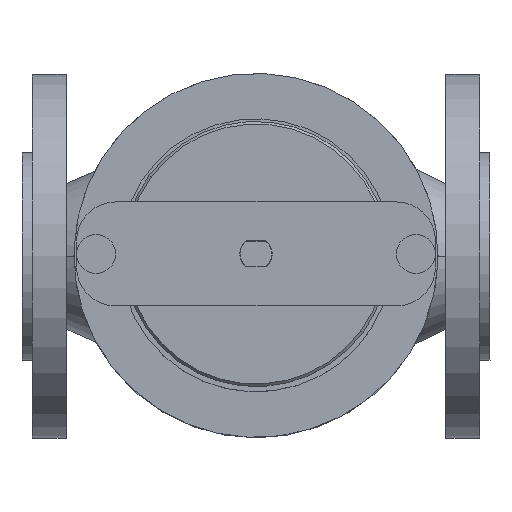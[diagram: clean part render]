
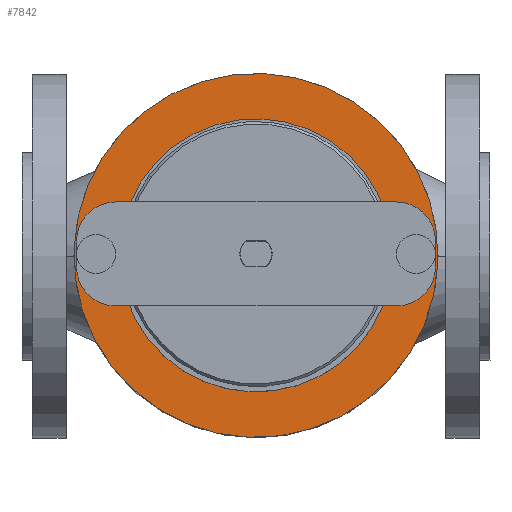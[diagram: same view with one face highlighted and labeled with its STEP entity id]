
A CAD part, top view. The second image highlights one B-rep face of the part: STEP entity #7842.
In plain terms, the highlighted planar face has unit normal (0, 0, 1).
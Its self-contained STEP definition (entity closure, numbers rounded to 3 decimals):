
#58 = DIRECTION ( 'NONE',  ( 0., 0., 1. ) ) ;
#248 = DIRECTION ( 'NONE',  ( 0., 1., 0. ) ) ;
#435 = DIRECTION ( 'NONE',  ( 0., 1., 0. ) ) ;
#616 = CIRCLE ( 'NONE', #7665, 52.5 ) ;
#708 = VERTEX_POINT ( 'NONE', #3584 ) ;
#749 = FACE_BOUND ( 'NONE', #6006, .T. ) ;
#775 = CARTESIAN_POINT ( 'NONE',  ( 79.828, 19.093, 146.08 ) ) ;
#1074 = DIRECTION ( 'NONE',  ( 0., 0., -1. ) ) ;
#1100 = CIRCLE ( 'NONE', #7341, 7.5 ) ;
#1119 = CIRCLE ( 'NONE', #3381, 70. ) ;
#1525 = VERTEX_POINT ( 'NONE', #9306 ) ;
#1707 = EDGE_CURVE ( 'NONE', #9060, #9465, #616, .T. ) ;
#1737 = DIRECTION ( 'NONE',  ( 0., 0., -1. ) ) ;
#1789 = CARTESIAN_POINT ( 'NONE',  ( 18.328, 11.593, 146.08 ) ) ;
#1801 = CARTESIAN_POINT ( 'NONE',  ( 18.328, 11.593, 146.08 ) ) ;
#1809 = EDGE_CURVE ( 'NONE', #1525, #9267, #5259, .T. ) ;
#1831 = CARTESIAN_POINT ( 'NONE',  ( 18.328, 11.593, 146.08 ) ) ;
#1836 = CARTESIAN_POINT ( 'NONE',  ( 79.828, 11.593, 146.08 ) ) ;
#1885 = CIRCLE ( 'NONE', #4923, 7.5 ) ;
#2077 = AXIS2_PLACEMENT_3D ( 'NONE', #1801, #4899, #248 ) ;
#2196 = EDGE_LOOP ( 'NONE', ( #2744, #8680 ) ) ;
#2308 = ORIENTED_EDGE ( 'NONE', *, *, #5421, .F. ) ;
#2313 = PLANE ( 'NONE',  #7185 ) ;
#2617 = CARTESIAN_POINT ( 'NONE',  ( 38.419, 60.096, 146.08 ) ) ;
#2744 = ORIENTED_EDGE ( 'NONE', *, *, #9603, .F. ) ;
#3061 = FACE_OUTER_BOUND ( 'NONE', #5302, .T. ) ;
#3227 = DIRECTION ( 'NONE',  ( 0., 0., 1. ) ) ;
#3381 = AXIS2_PLACEMENT_3D ( 'NONE', #1789, #1737, #4147 ) ;
#3425 = ORIENTED_EDGE ( 'NONE', *, *, #7096, .T. ) ;
#3456 = DIRECTION ( 'NONE',  ( 0., 0., -1. ) ) ;
#3584 = CARTESIAN_POINT ( 'NONE',  ( -43.172, 4.093, 146.08 ) ) ;
#3607 = ORIENTED_EDGE ( 'NONE', *, *, #9910, .F. ) ;
#4147 = DIRECTION ( 'NONE',  ( -1., 0., 0. ) ) ;
#4383 = CARTESIAN_POINT ( 'NONE',  ( 18.328, 11.593, 146.08 ) ) ;
#4513 = ORIENTED_EDGE ( 'NONE', *, *, #4650, .F. ) ;
#4554 = VERTEX_POINT ( 'NONE', #7059 ) ;
#4650 = EDGE_CURVE ( 'NONE', #9465, #9060, #8156, .T. ) ;
#4759 = AXIS2_PLACEMENT_3D ( 'NONE', #1831, #1074, #5687 ) ;
#4843 = DIRECTION ( 'NONE',  ( 0., 1., 0. ) ) ;
#4899 = DIRECTION ( 'NONE',  ( 0., 0., 1. ) ) ;
#4901 = CARTESIAN_POINT ( 'NONE',  ( -43.172, 11.593, 146.08 ) ) ;
#4912 = VERTEX_POINT ( 'NONE', #7357 ) ;
#4923 = AXIS2_PLACEMENT_3D ( 'NONE', #8531, #58, #6210 ) ;
#5077 = CARTESIAN_POINT ( 'NONE',  ( -1.763, -36.911, 146.08 ) ) ;
#5259 = CIRCLE ( 'NONE', #5580, 7.5 ) ;
#5302 = EDGE_LOOP ( 'NONE', ( #3607, #2308 ) ) ;
#5410 = DIRECTION ( 'NONE',  ( 0., 0., -1. ) ) ;
#5421 = EDGE_CURVE ( 'NONE', #4554, #4912, #1119, .T. ) ;
#5580 = AXIS2_PLACEMENT_3D ( 'NONE', #1836, #6625, #4843 ) ;
#5648 = DIRECTION ( 'NONE',  ( 0., 1., 0. ) ) ;
#5687 = DIRECTION ( 'NONE',  ( -1., 0., 0. ) ) ;
#5851 = VERTEX_POINT ( 'NONE', #5937 ) ;
#5937 = CARTESIAN_POINT ( 'NONE',  ( -43.172, 19.093, 146.08 ) ) ;
#5999 = FACE_BOUND ( 'NONE', #2196, .T. ) ;
#6006 = EDGE_LOOP ( 'NONE', ( #4513, #9501 ) ) ;
#6210 = DIRECTION ( 'NONE',  ( 0., 1., 0. ) ) ;
#6212 = EDGE_CURVE ( 'NONE', #708, #5851, #1885, .T. ) ;
#6264 = DIRECTION ( 'NONE',  ( 0., 1., 0. ) ) ;
#6518 = AXIS2_PLACEMENT_3D ( 'NONE', #4901, #3227, #6264 ) ;
#6568 = ORIENTED_EDGE ( 'NONE', *, *, #1809, .T. ) ;
#6625 = DIRECTION ( 'NONE',  ( 0., 0., -1. ) ) ;
#6908 = DIRECTION ( 'NONE',  ( -1., 0., 0. ) ) ;
#7059 = CARTESIAN_POINT ( 'NONE',  ( 45.116, 76.264, 146.08 ) ) ;
#7096 = EDGE_CURVE ( 'NONE', #9267, #1525, #1100, .T. ) ;
#7185 = AXIS2_PLACEMENT_3D ( 'NONE', #8962, #5410, #6908 ) ;
#7200 = DIRECTION ( 'NONE',  ( 0., 0., 1. ) ) ;
#7318 = CIRCLE ( 'NONE', #6518, 7.5 ) ;
#7341 = AXIS2_PLACEMENT_3D ( 'NONE', #8663, #3456, #435 ) ;
#7357 = CARTESIAN_POINT ( 'NONE',  ( -8.46, -53.079, 146.08 ) ) ;
#7665 = AXIS2_PLACEMENT_3D ( 'NONE', #4383, #7200, #5648 ) ;
#7842 = ADVANCED_FACE ( 'NONE', ( #5999, #3061, #749, #9052 ), #2313, .F. ) ;
#8156 = CIRCLE ( 'NONE', #2077, 52.5 ) ;
#8531 = CARTESIAN_POINT ( 'NONE',  ( -43.172, 11.593, 146.08 ) ) ;
#8663 = CARTESIAN_POINT ( 'NONE',  ( 79.828, 11.593, 146.08 ) ) ;
#8680 = ORIENTED_EDGE ( 'NONE', *, *, #6212, .F. ) ;
#8962 = CARTESIAN_POINT ( 'NONE',  ( 18.328, 11.593, 146.08 ) ) ;
#9052 = FACE_BOUND ( 'NONE', #9473, .T. ) ;
#9060 = VERTEX_POINT ( 'NONE', #5077 ) ;
#9267 = VERTEX_POINT ( 'NONE', #775 ) ;
#9306 = CARTESIAN_POINT ( 'NONE',  ( 79.828, 4.093, 146.08 ) ) ;
#9406 = CIRCLE ( 'NONE', #4759, 70. ) ;
#9465 = VERTEX_POINT ( 'NONE', #2617 ) ;
#9473 = EDGE_LOOP ( 'NONE', ( #3425, #6568 ) ) ;
#9501 = ORIENTED_EDGE ( 'NONE', *, *, #1707, .F. ) ;
#9603 = EDGE_CURVE ( 'NONE', #5851, #708, #7318, .T. ) ;
#9910 = EDGE_CURVE ( 'NONE', #4912, #4554, #9406, .T. ) ;
